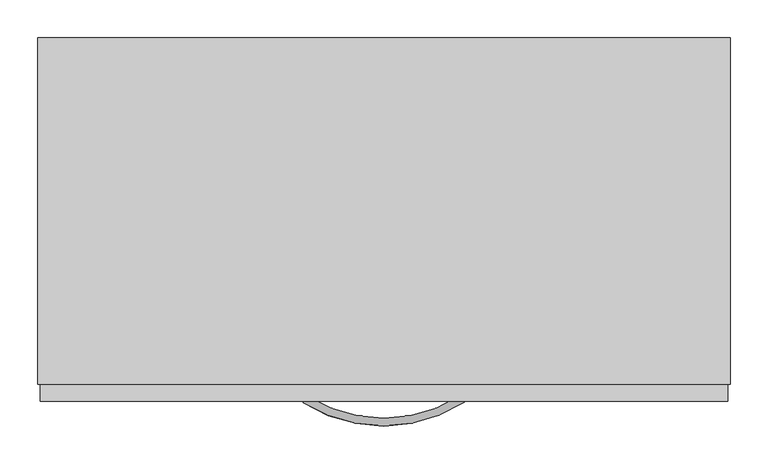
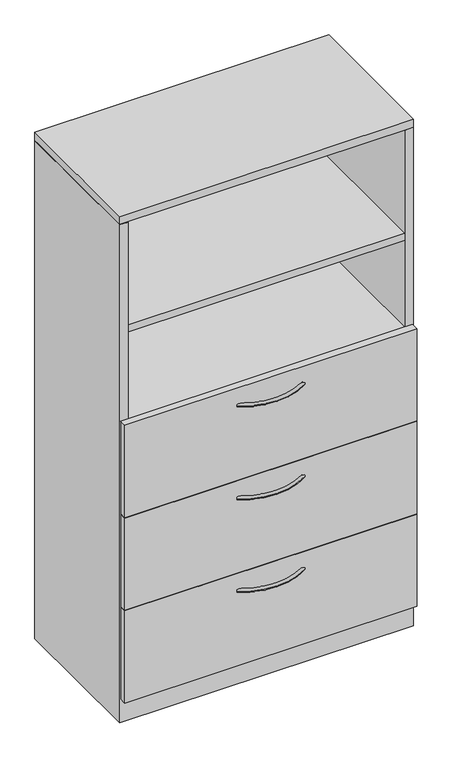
"""IFC4 building model written with IfcOpenShell, lengths in millimetres: furniture geometry, Steelcase - Universal Storage - Cabinet - Combination - Proud Steel : 65 1/2H - Open Cabinet/3 Drawers - 18 7/8D x 36W."""

from ifc_helpers import new_model, si_unit, point, frame, origin, place, context, project, spatial, polyline, circle_curve, ellipse_curve, trimmed, outline, extrude, faceted_brep, source, transform, mapped, element, save
from ifc_brep_helpers import plane_surface, revolved_surface, advanced_brep


def furniture_6d36a021(model_context):
    return source(origin(), model_context, "Body", "SolidModel", [
        extrude(outline(polyline([(889.0000242, -25.4000008), (889.0000242, -454.0250121), (25.4000008, -454.0250121), (25.4000008, -25.4000008), (889.0000242, -25.4000008)])), frame((0.0, 0.0, 965.2000242), z_axis=(0.0, 0.0, 1.0), x_axis=(1.0, 0.0, 0.0)), (0.0, 0.0, 1.0), 22.2249516),
        extrude(outline(polyline([(889.0000242, -25.4000008), (889.0000242, -454.0250121), (25.4000008, -454.0250121), (25.4000008, -25.4000008), (889.0000242, -25.4000008)])), frame((0.0, 0.0, 1273.1750484), z_axis=(0.0, 0.0, 1.0), x_axis=(1.0, 0.0, 0.0)), (0.0, 0.0, 1.0), 22.2249516),
        advanced_brep(
        [(350.6245932, -481.5705994, 323.56425), (356.0977519, -473.0108019, 323.56425), (562.9315136, -481.1337636, 323.56425), (557.4231767, -472.5965612, 323.56425)],
        [
            (0, 1, circle_curve(frame((353.3611726, -477.2907007, 323.56425), z_axis=(-0.8424997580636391, 0.5386967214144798, 0.0), x_axis=(0.5386967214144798, 0.8424997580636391, 0.0)), 5.08)),
            (1, 0, circle_curve(frame((353.3611726, -477.2907007, 323.56425), z_axis=(-0.8424997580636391, 0.5386967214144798, 0.0), x_axis=(0.5386967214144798, 0.8424997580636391, 0.0)), 5.08)),
            (2, 3, circle_curve(frame((560.1773452, -476.8651624, 323.56425), z_axis=(0.8402758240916, 0.5421591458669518, 0.0), x_axis=(-0.5421591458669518, 0.8402758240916, 0.0)), 5.08)),
            (3, 2, circle_curve(frame((560.1773452, -476.8651624, 323.56425), z_axis=(0.8402758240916, 0.5421591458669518, 0.0), x_axis=(-0.5421591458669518, 0.8402758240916, 0.0)), 5.08)),
            (3, 1, circle_curve(frame((456.4380004, -316.0827352, 323.56425), z_axis=(0.0, 0.0, -1.0), x_axis=(-0.5386967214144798, -0.8424997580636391, 0.0)), 186.2648211)),
            (0, 2, circle_curve(frame((456.4380004, -316.0827352, 323.56425), z_axis=(0.0, 0.0, 1.0), x_axis=(-0.5386967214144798, -0.8424997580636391, 0.0)), 196.4248211)),
        ],
        [
            plane_surface(frame((353.7794521, -476.6365286, 324.358), z_axis=(-0.8424997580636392, 0.5386967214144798, 0.0), x_axis=(0.0, 0.0, 1.0))),
            plane_surface(frame((559.7563772, -476.2127171, 324.358), z_axis=(0.8402758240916, 0.5421591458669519, 0.0), x_axis=(0.0, 0.0, 1.0))),
            revolved_surface(trimmed(ellipse_curve(frame((353.3611726, -477.2907007, 323.56425), z_axis=(-0.8424997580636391, 0.5386967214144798, 0.0), x_axis=(0.5386967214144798, 0.8424997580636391, 0.0)), 5.08, 5.08), [point((350.6245932, -481.5705994, 323.56425))], [point((356.0977519, -473.0108019, 323.56425))], True, "CARTESIAN"), (456.4380004, -316.0827352, 324.358), (0.0, 0.0, 1.0)),
            revolved_surface(trimmed(ellipse_curve(frame((353.3611726, -477.2907007, 323.56425), z_axis=(-0.8424997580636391, 0.5386967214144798, 0.0), x_axis=(0.5386967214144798, 0.8424997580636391, 0.0)), 5.08, 5.08), [point((356.0977519, -473.0108019, 323.56425))], [point((350.6245932, -481.5705994, 323.56425))], True, "CARTESIAN"), (456.4380004, -316.0827352, 324.358), (0.0, 0.0, 1.0)),
        ],
        [
            (0, [[1, 2]]),
            (1, [[3, 4]]),
            (2, [[5, -1, 6, -4]]),
            (3, [[-6, -2, -5, -3]]),
        ],
    ),
        advanced_brep(
        [(350.6245932, -481.5705994, 627.85625), (356.0977519, -473.0108019, 627.85625), (562.9315136, -481.1337636, 627.85625), (557.4231767, -472.5965612, 627.85625)],
        [
            (0, 1, circle_curve(frame((353.3611726, -477.2907007, 627.85625), z_axis=(-0.8424997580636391, 0.5386967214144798, 0.0), x_axis=(0.5386967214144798, 0.8424997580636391, 0.0)), 5.08)),
            (1, 0, circle_curve(frame((353.3611726, -477.2907007, 627.85625), z_axis=(-0.8424997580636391, 0.5386967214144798, 0.0), x_axis=(0.5386967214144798, 0.8424997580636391, 0.0)), 5.08)),
            (2, 3, circle_curve(frame((560.1773452, -476.8651624, 627.85625), z_axis=(0.8402758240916, 0.5421591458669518, 0.0), x_axis=(-0.5421591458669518, 0.8402758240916, 0.0)), 5.08)),
            (3, 2, circle_curve(frame((560.1773452, -476.8651624, 627.85625), z_axis=(0.8402758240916, 0.5421591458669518, 0.0), x_axis=(-0.5421591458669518, 0.8402758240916, 0.0)), 5.08)),
            (3, 1, circle_curve(frame((456.4380004, -316.0827352, 627.85625), z_axis=(0.0, 0.0, -1.0), x_axis=(-0.5386967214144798, -0.8424997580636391, 0.0)), 186.2648211)),
            (0, 2, circle_curve(frame((456.4380004, -316.0827352, 627.85625), z_axis=(0.0, 0.0, 1.0), x_axis=(-0.5386967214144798, -0.8424997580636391, 0.0)), 196.4248211)),
        ],
        [
            plane_surface(frame((353.7794521, -476.6365286, 628.65), z_axis=(-0.8424997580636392, 0.5386967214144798, 0.0), x_axis=(0.0, 0.0, 1.0))),
            plane_surface(frame((559.7563772, -476.2127171, 628.65), z_axis=(0.8402758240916, 0.5421591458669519, 0.0), x_axis=(0.0, 0.0, 1.0))),
            revolved_surface(trimmed(ellipse_curve(frame((353.3611726, -477.2907007, 627.85625), z_axis=(-0.8424997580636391, 0.5386967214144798, 0.0), x_axis=(0.5386967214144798, 0.8424997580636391, 0.0)), 5.08, 5.08), [point((350.6245932, -481.5705994, 627.85625))], [point((356.0977519, -473.0108019, 627.85625))], True, "CARTESIAN"), (456.4380004, -316.0827352, 628.65), (0.0, 0.0, 1.0)),
            revolved_surface(trimmed(ellipse_curve(frame((353.3611726, -477.2907007, 627.85625), z_axis=(-0.8424997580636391, 0.5386967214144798, 0.0), x_axis=(0.5386967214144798, 0.8424997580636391, 0.0)), 5.08, 5.08), [point((356.0977519, -473.0108019, 627.85625))], [point((350.6245932, -481.5705994, 627.85625))], True, "CARTESIAN"), (456.4380004, -316.0827352, 628.65), (0.0, 0.0, 1.0)),
        ],
        [
            (0, [[1, 2]]),
            (1, [[3, 4]]),
            (2, [[5, -1, 6, -4]]),
            (3, [[-6, -2, -5, -3]]),
        ],
    ),
        extrude(outline(polyline([(911.2225413, -479.552), (3.1725353, -479.552), (3.1725353, -457.3261219), (911.2225413, -457.3261219), (911.2225413, -479.552)])), frame((0.0, 0.0, 687.3240349), z_axis=(0.0, 0.0, 1.0), x_axis=(1.0, 0.0, 0.0)), (0.0, 0.0, 1.0), 303.2759651),
        advanced_brep(
        [(350.6245932, -481.5705994, 932.65625), (356.0977519, -473.0108019, 932.65625), (562.9315136, -481.1337636, 932.65625), (557.4231767, -472.5965612, 932.65625)],
        [
            (0, 1, circle_curve(frame((353.3611726, -477.2907007, 932.65625), z_axis=(-0.8424997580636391, 0.5386967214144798, 0.0), x_axis=(0.5386967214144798, 0.8424997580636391, 0.0)), 5.08)),
            (1, 0, circle_curve(frame((353.3611726, -477.2907007, 932.65625), z_axis=(-0.8424997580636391, 0.5386967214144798, 0.0), x_axis=(0.5386967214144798, 0.8424997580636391, 0.0)), 5.08)),
            (2, 3, circle_curve(frame((560.1773452, -476.8651624, 932.65625), z_axis=(0.8402758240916, 0.5421591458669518, 0.0), x_axis=(-0.5421591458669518, 0.8402758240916, 0.0)), 5.08)),
            (3, 2, circle_curve(frame((560.1773452, -476.8651624, 932.65625), z_axis=(0.8402758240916, 0.5421591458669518, 0.0), x_axis=(-0.5421591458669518, 0.8402758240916, 0.0)), 5.08)),
            (3, 1, circle_curve(frame((456.4380004, -316.0827352, 932.65625), z_axis=(0.0, 0.0, -1.0), x_axis=(-0.5386967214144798, -0.8424997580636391, 0.0)), 186.2648211)),
            (0, 2, circle_curve(frame((456.4380004, -316.0827352, 932.65625), z_axis=(0.0, 0.0, 1.0), x_axis=(-0.5386967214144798, -0.8424997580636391, 0.0)), 196.4248211)),
        ],
        [
            plane_surface(frame((353.7794521, -476.6365286, 933.45), z_axis=(-0.8424997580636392, 0.5386967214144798, 0.0), x_axis=(0.0, 0.0, 1.0))),
            plane_surface(frame((559.7563772, -476.2127171, 933.45), z_axis=(0.8402758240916, 0.5421591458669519, 0.0), x_axis=(0.0, 0.0, 1.0))),
            revolved_surface(trimmed(ellipse_curve(frame((353.3611726, -477.2907007, 932.65625), z_axis=(-0.8424997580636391, 0.5386967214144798, 0.0), x_axis=(0.5386967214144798, 0.8424997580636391, 0.0)), 5.08, 5.08), [point((350.6245932, -481.5705994, 932.65625))], [point((356.0977519, -473.0108019, 932.65625))], True, "CARTESIAN"), (456.4380004, -316.0827352, 933.45), (0.0, 0.0, 1.0)),
            revolved_surface(trimmed(ellipse_curve(frame((353.3611726, -477.2907007, 932.65625), z_axis=(-0.8424997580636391, 0.5386967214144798, 0.0), x_axis=(0.5386967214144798, 0.8424997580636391, 0.0)), 5.08, 5.08), [point((356.0977519, -473.0108019, 932.65625))], [point((350.6245932, -481.5705994, 932.65625))], True, "CARTESIAN"), (456.4380004, -316.0827352, 933.45), (0.0, 0.0, 1.0)),
        ],
        [
            (0, [[1, 2]]),
            (1, [[3, 4]]),
            (2, [[5, -1, 6, -4]]),
            (3, [[-6, -2, -5, -3]]),
        ],
    ),
        faceted_brep([(25.4000008, -457.3261219, 76.2), (889.0000242, -457.3261219, 76.2), (889.0000242, -25.4000008, 76.2), (25.4000008, -25.4000008, 76.2), (914.4, 0.0, 0.0), (914.4, -457.3261219, 0.0), (0.0, -457.3261219, 0.0), (0.0, 0.0, 0.0), (0.0, 0.0, 1636.776), (914.4, 0.0, 1636.776), (0.0, -457.3261219, 1636.776), (914.4, -457.3261219, 1636.776), (889.0000242, -457.3261219, 1636.776), (25.4000008, -457.3261219, 1636.776), (889.0000242, -25.4000008, 1636.776), (25.4000008, -25.4000008, 1636.776)], [[[0, 1, 2, 3]], [[4, 5, 6, 7]], [[4, 7, 8, 9]], [[8, 7, 6, 10]], [[10, 6, 5, 11, 12, 1, 0, 13]], [[11, 5, 4, 9]], [[14, 12, 11, 9, 8, 10, 13, 15]], [[12, 14, 2, 1]], [[15, 13, 0, 3]], [[14, 15, 3, 2]]]),
        extrude(outline(polyline([(911.2225413, -479.552), (3.1725353, -479.552), (3.1725353, -457.3261219), (911.2225413, -457.3261219), (911.2225413, -479.552)])), frame((0.0, 0.0, 77.724), z_axis=(0.0, 0.0, 1.0), x_axis=(1.0, 0.0, 0.0)), (0.0, 0.0, 1.0), 303.276),
        extrude(outline(polyline([(911.2225413, -479.552), (3.1725353, -479.552), (3.1725353, -457.3261219), (911.2225413, -457.3261219), (911.2225413, -479.552)])), frame((0.0, 0.0, 382.524), z_axis=(0.0, 0.0, 1.0), x_axis=(1.0, 0.0, 0.0)), (0.0, 0.0, 1.0), 303.276),
        extrude(outline(polyline([(914.4, 0.0), (914.4, -457.3261219), (0.0, -457.3261219), (0.0, 0.0), (914.4, 0.0)])), frame((0.0, 0.0, 1638.2999516), z_axis=(0.0, 0.0, 1.0), x_axis=(1.0, 0.0, 0.0)), (0.0, 0.0, 1.0), 25.4000484),
    ])


if __name__ == "__main__":
    model = new_model("IFC4")
    model_context = context("Model", 3, world=origin())
    ifc_project = project(units=[si_unit("LENGTHUNIT", "METRE", prefix="MILLI")], contexts=[model_context])
    site = spatial("IfcSite", under=ifc_project)
    building = spatial("IfcBuilding", under=site)
    placement = place(None, origin())
    furniture_shape = furniture_6d36a021(model_context)
    element("IfcFurniture", 1, ObjectType="Steelcase - Universal Storage - Cabinet - Combination - Proud Steel : 65 1/2H - Open Cabinet/3 Drawers - 18 7/8D x 36W", at=placement, inside=building, context=model_context, shape_type="MappedRepresentation", body=[
        mapped(furniture_shape, transform((0.0, 0.0, 0.0), x_axis=(1.0, 0.0, 0.0), y_axis=(0.0, 1.0, 0.0), z_axis=(0.0, 0.0, 1.0))),
    ])
    save(model, "model.ifc")
